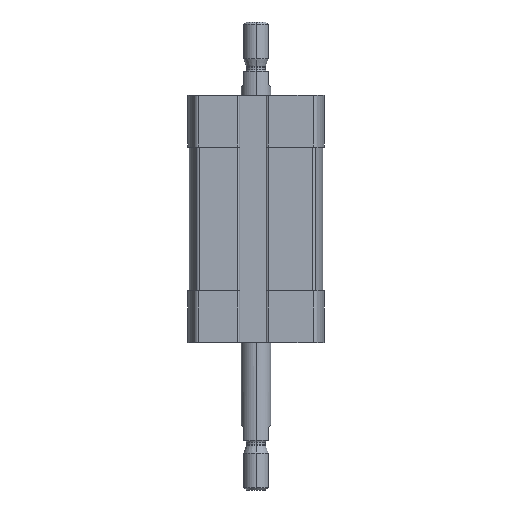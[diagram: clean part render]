
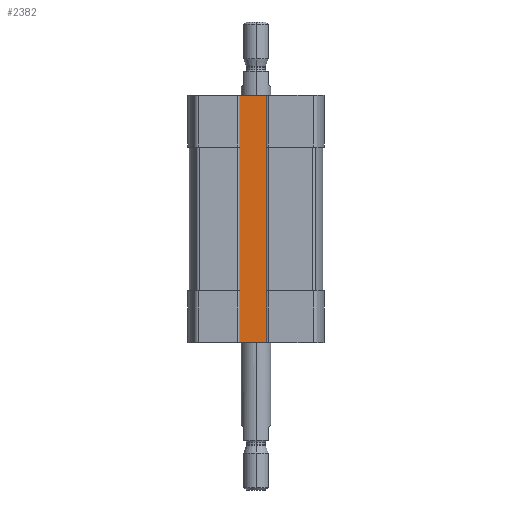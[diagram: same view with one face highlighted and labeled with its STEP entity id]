
A CAD part, left-side view. The second image highlights one B-rep face of the part: STEP entity #2382.
In plain terms, the highlighted planar face has unit normal (-1, 0, 0).
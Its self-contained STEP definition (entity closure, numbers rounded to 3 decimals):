
#227 = VERTEX_POINT ( 'NONE', #6883 ) ;
#945 = EDGE_LOOP ( 'NONE', ( #10084, #9151, #9827, #2461 ) ) ;
#1042 = DIRECTION ( 'NONE',  ( -1., 0., 0. ) ) ;
#1750 = VERTEX_POINT ( 'NONE', #5888 ) ;
#2382 = ADVANCED_FACE ( 'NONE', ( #2887 ), #10046, .T. ) ;
#2449 = DIRECTION ( 'NONE',  ( 0., 0., 1. ) ) ;
#2461 = ORIENTED_EDGE ( 'NONE', *, *, #8883, .T. ) ;
#2543 = LINE ( 'NONE', #10892, #6380 ) ;
#2563 = LINE ( 'NONE', #9065, #4101 ) ;
#2887 = FACE_OUTER_BOUND ( 'NONE', #945, .T. ) ;
#3455 = DIRECTION ( 'NONE',  ( 0., -1., 0. ) ) ;
#4101 = VECTOR ( 'NONE', #3455, 1000. ) ;
#4373 = CARTESIAN_POINT ( 'NONE',  ( -8.3, 3.6, 0. ) ) ;
#4507 = EDGE_CURVE ( 'NONE', #227, #1750, #2563, .T. ) ;
#4846 = VECTOR ( 'NONE', #2449, 1000. ) ;
#4870 = CARTESIAN_POINT ( 'NONE',  ( -8.3, 3.6, 0. ) ) ;
#5218 = CARTESIAN_POINT ( 'NONE',  ( -8.3, -2.4, 0. ) ) ;
#5675 = EDGE_CURVE ( 'NONE', #11361, #9917, #10878, .T. ) ;
#5886 = VECTOR ( 'NONE', #9923, 1000. ) ;
#5888 = CARTESIAN_POINT ( 'NONE',  ( -8.3, -2.4, -50. ) ) ;
#6380 = VECTOR ( 'NONE', #7002, 1000. ) ;
#6520 = DIRECTION ( 'NONE',  ( 0., 0., 1. ) ) ;
#6883 = CARTESIAN_POINT ( 'NONE',  ( -8.3, 3.6, -50. ) ) ;
#7002 = DIRECTION ( 'NONE',  ( 0., 0., 1. ) ) ;
#8359 = CARTESIAN_POINT ( 'NONE',  ( -8.3, 3.6, -50. ) ) ;
#8883 = EDGE_CURVE ( 'NONE', #1750, #9917, #10618, .T. ) ;
#9065 = CARTESIAN_POINT ( 'NONE',  ( -8.3, 3.6, -50. ) ) ;
#9151 = ORIENTED_EDGE ( 'NONE', *, *, #9838, .F. ) ;
#9827 = ORIENTED_EDGE ( 'NONE', *, *, #4507, .T. ) ;
#9838 = EDGE_CURVE ( 'NONE', #227, #11361, #2543, .T. ) ;
#9917 = VERTEX_POINT ( 'NONE', #5218 ) ;
#9923 = DIRECTION ( 'NONE',  ( 0., -1., 0. ) ) ;
#10046 = PLANE ( 'NONE',  #11112 ) ;
#10084 = ORIENTED_EDGE ( 'NONE', *, *, #5675, .F. ) ;
#10509 = CARTESIAN_POINT ( 'NONE',  ( -8.3, -2.4, -50. ) ) ;
#10618 = LINE ( 'NONE', #10509, #4846 ) ;
#10878 = LINE ( 'NONE', #4373, #5886 ) ;
#10892 = CARTESIAN_POINT ( 'NONE',  ( -8.3, 3.6, -50. ) ) ;
#11112 = AXIS2_PLACEMENT_3D ( 'NONE', #8359, #1042, #6520 ) ;
#11361 = VERTEX_POINT ( 'NONE', #4870 ) ;
